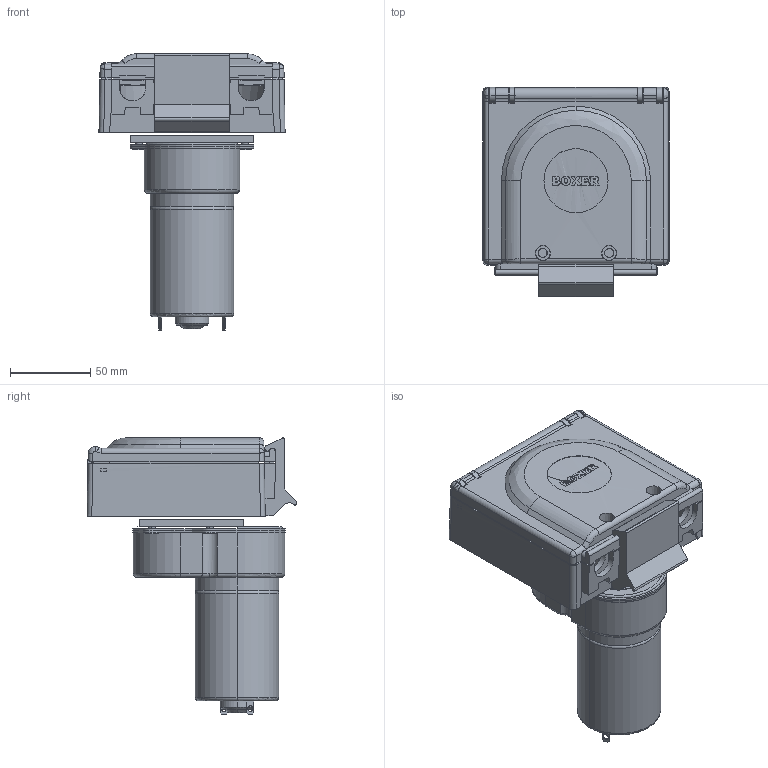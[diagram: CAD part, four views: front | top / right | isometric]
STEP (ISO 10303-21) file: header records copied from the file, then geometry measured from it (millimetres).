
FILE_DESCRIPTION (( 'STEP AP203' ), '1' );
FILE_NAME ('4K 322.STEP', '2016-01-09T08:37:37', ( '' ), ( '' ), 'SwSTEP 2.0', 'SolidWorks 2014', '' );
FILE_SCHEMA (( 'CONFIG_CONTROL_DESIGN' ));
Length unit declared in the file: metre
Products named in the file (1): 4K 322
Bounding box: 116 x 130.89 x 172.2 mm (x, y, z)
Surface area: 126204.4 mm2 (no closed solid volume)
Topology: 0 solids, 19 shells, 545 faces, 2061 edges, 1527 vertices
Faces by surface type: plane 300, cylinder 144, cone 57, bspline 29, torus 15
Entity records: 36806 total; most frequent: CARTESIAN_POINT 20827, ORIENTED_EDGE 3343, DIRECTION 2671, EDGE_CURVE 2057, VERTEX_POINT 1527, VECTOR 1063, LINE 1063, AXIS2_PLACEMENT_3D 804
